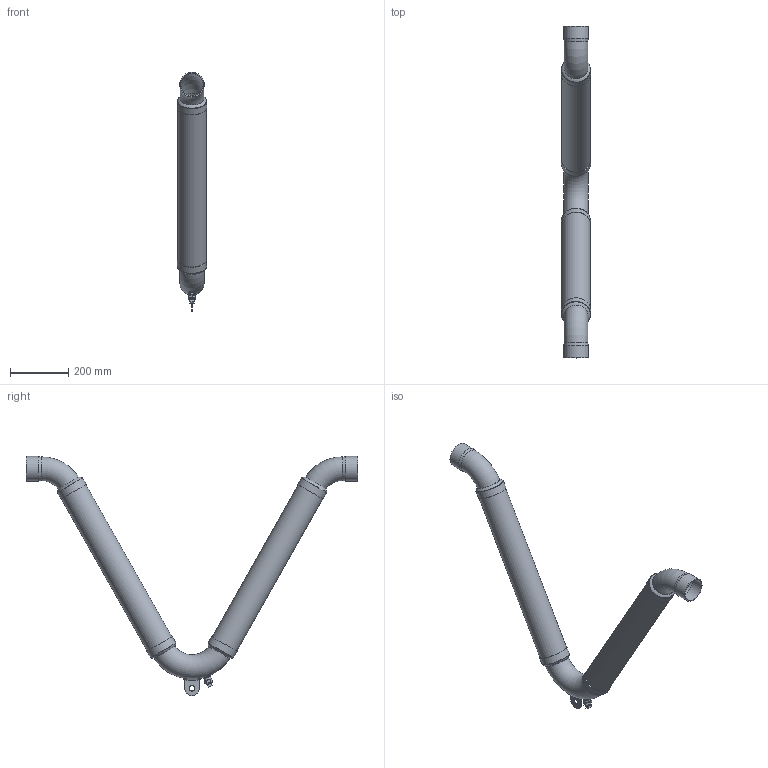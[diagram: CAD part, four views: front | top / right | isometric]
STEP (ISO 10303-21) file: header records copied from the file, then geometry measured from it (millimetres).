
FILE_DESCRIPTION((''),'2;1');
FILE_NAME('C:\REVIT SHARED FILES\STP\VCPSB\VCPSB-3.stp','2013-08-08T10:41:43',('rramoutar'),(''),'Autodesk Inventor 2012','Autodesk Inventor 2012','');
FILE_SCHEMA(('AUTOMOTIVE_DESIGN { 1 0 10303 214 1 1 1 1 }'));
Length unit declared in the file: inch
Products named in the file (9): A-31298-2 VCPSB 3.0 inch.iam (NO HOSE); A-31298-2 VCPSB 3.0 inch.iam (NO HOSE)_Welds; B-1502-2 VCPSB 3.0  inch 120 DEGREE ELBOW; A-31301-2 BRASS, CAST PLUG 0.5 inch; A-31301-2 COPPER FEMALE ADAPTER 0.5 inch; A-31304 VCPS & VCPSB 3.0 inch & 4.0 inch SUPPORT CLIP; A-31123-4 VCPSB 3.0  inch 60 DEGREE ELBOW; A-31011 BRONZE HOSE BRAID COLLAR 3.0 inch; A-31298-2 VCPSB 3.0 inch PHOSPHOR BRONZE BRAID
Assembly tree (13 placements, depth 2):
  A-31298-2 VCPSB 3.0 inch.iam (NO HOSE)
    A-31298-2 VCPSB 3.0 inch.iam (NO HOSE)_Welds
    B-1502-2 VCPSB 3.0  inch 120 DEGREE ELBOW
    A-31301-2 BRASS, CAST PLUG 0.5 inch
    A-31301-2 COPPER FEMALE ADAPTER 0.5 inch
    A-31304 VCPS & VCPSB 3.0 inch & 4.0 inch SUPPORT CLIP
    A-31123-4 VCPSB 3.0  inch 60 DEGREE ELBOW  x2
    A-31011 BRONZE HOSE BRAID COLLAR 3.0 inch  x4
    A-31298-2 VCPSB 3.0 inch PHOSPHOR BRONZE BRAID  x2
Bounding box: 100.99 x 1144.59 x 825.31 mm (x, y, z)
Volume: 694491.9 mm3; surface area: 1216404.5 mm2
Topology: 18 solids, 18 shells, 107 faces, 224 edges, 148 vertices
Faces by surface type: plane 52, cylinder 26, torus 12, bspline 9, cone 8
Full cylindrical faces by diameter (mm): 14.408 x1, 15.767 x1, 18.256 x3, 19.05 x1, 20.32 x1, 21.336 x1, 24.74 x1, 79.807 x2, 85.344 x2, 97.028 x2, 97.841 x6, 101.016 x4
Entity records: 6731 total; most frequent: CARTESIAN_POINT 4809, DIRECTION 326, ORIENTED_EDGE 284, AXIS2_PLACEMENT_3D 144, EDGE_CURVE 142, EDGE_LOOP 135, VERTEX_POINT 111, FACE_OUTER_BOUND 83
